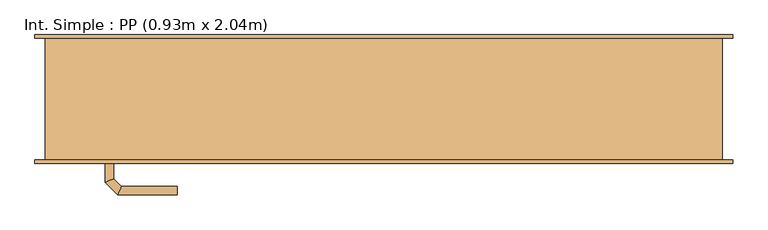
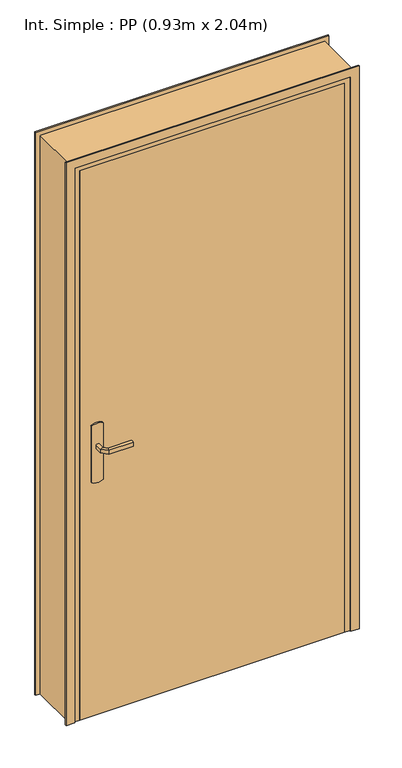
"""IFC4 building model written with IfcOpenShell, lengths in millimetres: door geometry, Int. Simple : PP (0.93m x 2.04m)."""

from ifc_helpers import new_model, si_unit, point, frame, frame_2d, origin, origin_with_axes, place, context, project, spatial, polyline, circle_curve, ellipse_curve, trimmed, segment, composite_curve, outline, extrude, faceted_brep, source, transform, mapped, element, save
from ifc_brep_helpers import plane_surface, cylinder_surface, advanced_brep


def int_simple_pp_0_93m_x_2_04m_0354226a(model_context):
    return source(origin(), model_context, "Body", "SolidModel", [
        extrude(outline(composite_curve([segment(trimmed(circle_curve(frame_2d((904.6410162, -440.0)), 40.0), [point((870.0, -460.0))], [point((870.0, -420.0))], False, "CARTESIAN"), True, "CONTINUOUS"), segment(polyline([(870.0, -420.0), (1080.0, -420.0)]), True, "CONTINUOUS"), segment(trimmed(circle_curve(frame_2d((1045.3589838, -440.0)), 40.0), [point((1080.0, -420.0))], [point((1080.0, -460.0))], False, "CARTESIAN"), True, "CONTINUOUS"), segment(polyline([(1080.0, -460.0), (870.0, -460.0)]), True, "CONTINUOUS")], self_intersect=False)), frame((0.0, -95.0, 0.0), z_axis=(0.0, 1.0, 0.0), x_axis=(0.0, 0.0, 1.0)), (0.0, 0.0, 1.0), 5.0),
        extrude(outline(composite_curve([segment(trimmed(circle_curve(frame_2d((1045.3589838, -440.0)), 40.0), [point((1080.0, -420.0))], [point((1080.0, -460.0))], False, "CARTESIAN"), True, "CONTINUOUS"), segment(polyline([(1080.0, -460.0), (870.0, -460.0)]), True, "CONTINUOUS"), segment(trimmed(circle_curve(frame_2d((904.6410162, -440.0)), 40.0), [point((870.0, -460.0))], [point((870.0, -420.0))], False, "CARTESIAN"), True, "CONTINUOUS"), segment(polyline([(870.0, -420.0), (1080.0, -420.0)]), True, "CONTINUOUS")], self_intersect=False)), frame((0.0, -50.0, 0.0), z_axis=(0.0, 1.0, 0.0), x_axis=(0.0, 0.0, 1.0)), (0.0, 0.0, 1.0), 5.0),
        advanced_brep(
        [(-446.0, -95.0, 1007.0), (-434.0, -95.0, 1007.0), (-434.0, -95.0, 993.0), (-446.0, -95.0, 993.0), (-446.0, -122.6509507, 1007.0), (-434.0, -117.680388, 1007.0), (-434.0, -117.680388, 993.0), (-446.0, -122.6509507, 993.0), (-427.62279, -141.0281607, 1007.0), (-422.6522273, -129.0281607, 1007.0), (-422.6522273, -129.0281607, 993.0), (-427.62279, -141.0281607, 993.0), (-339.9813594, -141.0281607, 1007.0), (-339.9813594, -141.0281607, 993.0), (-339.9813594, -129.0281607, 993.0), (-339.9813594, -129.0281607, 1007.0)],
        [
            (0, 1, circle_curve(frame((-440.0, -95.0, 986.9542278), z_axis=(0.0, 1.0, 0.0), x_axis=(1.0, 0.0, 0.0)), 20.9244589)),
            (1, 2),
            (2, 3, circle_curve(frame((-440.0, -95.0, 1013.0457722), z_axis=(0.0, 1.0, 0.0), x_axis=(1.0, 0.0, 0.0)), 20.9244589)),
            (3, 0),
            (0, 4),
            (4, 5, ellipse_curve(frame((-440.0, -120.1656693, 986.9542278), z_axis=(-0.3826834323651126, 0.9238795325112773, 0.0), x_axis=(0.9238795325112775, 0.38268343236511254, 0.0)), 22.6484711, 20.9244589)),
            (5, 1),
            (5, 6),
            (6, 2),
            (6, 7, ellipse_curve(frame((-440.0, -120.1656693, 1013.0457722), z_axis=(-0.3826834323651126, 0.9238795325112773, 0.0), x_axis=(0.9238795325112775, 0.38268343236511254, 0.0)), 22.6484711, 20.9244589)),
            (7, 3),
            (7, 4),
            (4, 8),
            (8, 9, ellipse_curve(frame((-425.1375086, -135.0281607, 986.9542278), z_axis=(-0.9238795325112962, 0.38268343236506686, 0.0), x_axis=(0.3826834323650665, 0.9238795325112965, 0.0)), 22.6484711, 20.9244589)),
            (9, 5),
            (9, 10),
            (10, 6),
            (10, 11, ellipse_curve(frame((-425.1375086, -135.0281607, 1013.0457722), z_axis=(-0.9238795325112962, 0.38268343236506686, 0.0), x_axis=(0.3826834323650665, 0.9238795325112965, 0.0)), 22.6484711, 20.9244589)),
            (11, 7),
            (11, 8),
            (12, 13),
            (13, 14, circle_curve(frame((-339.9813594, -135.0281607, 1013.0457722), z_axis=(1.0, 0.0, 0.0), x_axis=(0.0, 1.0, 0.0)), 20.9244589)),
            (14, 15),
            (15, 12, circle_curve(frame((-339.9813594, -135.0281607, 986.9542278), z_axis=(1.0, 0.0, 0.0), x_axis=(0.0, 1.0, 0.0)), 20.9244589)),
            (8, 12),
            (15, 9),
            (14, 10),
            (13, 11),
        ],
        [
            plane_surface(frame((-449.2195445, -95.0, 1000.0), z_axis=(0.0, 1.0, 0.0), x_axis=(0.0, 0.0, -1.0))),
            cylinder_surface(frame((-440.0, -95.0, 986.9542278), z_axis=(0.0, 1.0, 0.0), x_axis=(1.0, 0.0, 0.0)), 20.9244589),
            plane_surface(frame((-434.0, -95.0, 1007.0), z_axis=(1.0, 0.0, 0.0), x_axis=(0.0, -1.0, 0.0))),
            cylinder_surface(frame((-440.0, -95.0, 1013.0457722), z_axis=(0.0, 1.0, 0.0), x_axis=(1.0, 0.0, 0.0)), 20.9244589),
            plane_surface(frame((-446.0, -95.0, 993.0), z_axis=(-1.0, 0.0, 0.0), x_axis=(0.0, -1.0, 0.0))),
            cylinder_surface(frame((-440.0, -120.1656693, 986.9542278), z_axis=(-0.7071067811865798, 0.7071067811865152, 0.0), x_axis=(0.7071067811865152, 0.7071067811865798, 0.0)), 20.9244589),
            plane_surface(frame((-434.0, -117.680388, 1007.0), z_axis=(0.7071067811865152, 0.7071067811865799, 0.0), x_axis=(0.7071067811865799, -0.7071067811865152, 0.0))),
            cylinder_surface(frame((-440.0, -120.1656693, 1013.0457722), z_axis=(-0.7071067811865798, 0.7071067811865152, 0.0), x_axis=(0.7071067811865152, 0.7071067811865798, 0.0)), 20.9244589),
            plane_surface(frame((-446.0, -122.6509507, 993.0), z_axis=(-0.7071067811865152, -0.7071067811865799, 0.0), x_axis=(0.7071067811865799, -0.7071067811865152, 0.0))),
            plane_surface(frame((-339.9813594, -135.0281607, 990.7804555), z_axis=(1.0, 0.0, 0.0), x_axis=(0.0, 1.0, 0.0))),
            cylinder_surface(frame((-425.1375086, -135.0281607, 986.9542278), z_axis=(-1.0, 0.0, 0.0), x_axis=(0.0, 1.0, 0.0)), 20.9244589),
            plane_surface(frame((-422.6522273, -129.0281607, 1007.0), z_axis=(0.0, 1.0, 0.0), x_axis=(1.0, 0.0, 0.0))),
            cylinder_surface(frame((-425.1375086, -135.0281607, 1013.0457722), z_axis=(-1.0, 0.0, 0.0), x_axis=(0.0, 1.0, 0.0)), 20.9244589),
            plane_surface(frame((-427.62279, -141.0281607, 993.0), z_axis=(0.0, -1.0, 0.0), x_axis=(1.0, 0.0, 0.0))),
        ],
        [
            (0, [[1, 2, 3, 4]]),
            (1, [[-1, 5, 6, 7]]),
            (2, [[-2, -7, 8, 9]]),
            (3, [[-3, -9, 10, 11]]),
            (4, [[-4, -11, 12, -5]]),
            (5, [[-6, 13, 14, 15]]),
            (6, [[-8, -15, 16, 17]]),
            (7, [[-10, -17, 18, 19]]),
            (8, [[-12, -19, 20, -13]]),
            (9, [[21, 22, 23, 24]]),
            (10, [[-14, 25, -24, 26]]),
            (11, [[-16, -26, -23, 27]]),
            (12, [[-18, -27, -22, 28]]),
            (13, [[-20, -28, -21, -25]]),
        ],
    ),
        advanced_brep(
        [(-434.0, -45.0, 993.0), (-434.0, -45.0, 1007.0), (-446.0, -45.0, 1007.0), (-446.0, -45.0, 993.0), (-434.0, -22.5147955, 993.0), (-434.0, -22.5147955, 1007.0), (-446.0, -17.5442327, 1007.0), (-446.0, -17.5442327, 993.0), (-422.5147186, -11.0295141, 993.0), (-422.5147186, -11.0295141, 1007.0), (-427.4852814, 0.9704859, 1007.0), (-427.4852814, 0.9704859, 993.0), (-339.9542163, -11.0295141, 993.0), (-339.9542163, 0.9704859, 993.0), (-339.9542163, 0.9704859, 1007.0), (-339.9542163, -11.0295141, 1007.0)],
        [
            (0, 1),
            (1, 2, circle_curve(frame((-440.0, -45.0, 986.9542278), z_axis=(0.0, -1.0, 0.0), x_axis=(-1.0, 0.0, 0.0)), 20.9244589)),
            (2, 3),
            (3, 0, circle_curve(frame((-440.0, -45.0, 1013.0457722), z_axis=(0.0, -1.0, 0.0), x_axis=(-1.0, 0.0, 0.0)), 20.9244589)),
            (0, 4),
            (4, 5),
            (5, 1),
            (5, 6, ellipse_curve(frame((-440.0, -20.0295141, 986.9542278), z_axis=(-0.3826834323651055, -0.9238795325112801, 0.0), x_axis=(0.9238795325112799, -0.3826834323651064, 0.0)), 22.6484711, 20.9244589)),
            (6, 2),
            (6, 7),
            (7, 3),
            (7, 4, ellipse_curve(frame((-440.0, -20.0295141, 1013.0457722), z_axis=(-0.3826834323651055, -0.9238795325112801, 0.0), x_axis=(0.9238795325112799, -0.3826834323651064, 0.0)), 22.6484711, 20.9244589)),
            (4, 8),
            (8, 9),
            (9, 5),
            (9, 10, ellipse_curve(frame((-425.0, -5.0295141, 986.9542278), z_axis=(-0.9238795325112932, -0.382683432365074, 0.0), x_axis=(0.3826834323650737, -0.9238795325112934, 0.0)), 22.6484711, 20.9244589)),
            (10, 6),
            (10, 11),
            (11, 7),
            (11, 8, ellipse_curve(frame((-425.0, -5.0295141, 1013.0457722), z_axis=(-0.9238795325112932, -0.382683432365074, 0.0), x_axis=(0.3826834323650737, -0.9238795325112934, 0.0)), 22.6484711, 20.9244589)),
            (12, 13, circle_curve(frame((-339.9542163, -5.0295141, 1013.0457722), z_axis=(1.0, 0.0, 0.0), x_axis=(0.0, 1.0, 0.0)), 20.9244589)),
            (13, 14),
            (14, 15, circle_curve(frame((-339.9542163, -5.0295141, 986.9542278), z_axis=(1.0, 0.0, 0.0), x_axis=(0.0, 1.0, 0.0)), 20.9244589)),
            (15, 12),
            (8, 12),
            (15, 9),
            (14, 10),
            (13, 11),
        ],
        [
            plane_surface(frame((-449.2195445, -45.0, 1000.0), z_axis=(0.0, -1.0, 0.0), x_axis=(0.0, 0.0, 1.0))),
            plane_surface(frame((-434.0, -45.0, 993.0), z_axis=(1.0, 0.0, 0.0), x_axis=(0.0, 1.0, 0.0))),
            cylinder_surface(frame((-440.0, -45.0, 986.9542278), z_axis=(0.0, -1.0, 0.0), x_axis=(-1.0, 0.0, 0.0)), 20.9244589),
            plane_surface(frame((-446.0, -45.0, 1007.0), z_axis=(-1.0, 0.0, 0.0), x_axis=(0.0, 1.0, 0.0))),
            cylinder_surface(frame((-440.0, -45.0, 1013.0457722), z_axis=(0.0, -1.0, 0.0), x_axis=(-1.0, 0.0, 0.0)), 20.9244589),
            plane_surface(frame((-434.0, -22.5147955, 993.0), z_axis=(0.7071067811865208, -0.7071067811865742, 0.0), x_axis=(0.7071067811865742, 0.7071067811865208, 0.0))),
            cylinder_surface(frame((-440.0, -20.0295141, 986.9542278), z_axis=(-0.7071067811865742, -0.7071067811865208, 0.0), x_axis=(-0.7071067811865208, 0.7071067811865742, 0.0)), 20.9244589),
            plane_surface(frame((-446.0, -17.5442327, 1007.0), z_axis=(-0.7071067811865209, 0.7071067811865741, 0.0), x_axis=(0.7071067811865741, 0.7071067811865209, 0.0))),
            cylinder_surface(frame((-440.0, -20.0295141, 1013.0457722), z_axis=(-0.7071067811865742, -0.7071067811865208, 0.0), x_axis=(-0.7071067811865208, 0.7071067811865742, 0.0)), 20.9244589),
            plane_surface(frame((-339.9542163, -5.0295141, 990.7804555), z_axis=(1.0, 0.0, 0.0), x_axis=(0.0, 1.0, 0.0))),
            plane_surface(frame((-422.5147186, -11.0295141, 993.0), z_axis=(0.0, -1.0, 0.0), x_axis=(1.0, 0.0, 0.0))),
            cylinder_surface(frame((-425.0, -5.0295141, 986.9542278), z_axis=(-1.0, 0.0, 0.0), x_axis=(0.0, 1.0, 0.0)), 20.9244589),
            plane_surface(frame((-427.4852814, 0.9704859, 1007.0), z_axis=(0.0, 1.0, 0.0), x_axis=(1.0, 0.0, 0.0))),
            cylinder_surface(frame((-425.0, -5.0295141, 1013.0457722), z_axis=(-1.0, 0.0, 0.0), x_axis=(0.0, 1.0, 0.0)), 20.9244589),
        ],
        [
            (0, [[1, 2, 3, 4]]),
            (1, [[-1, 5, 6, 7]]),
            (2, [[-2, -7, 8, 9]]),
            (3, [[-3, -9, 10, 11]]),
            (4, [[-4, -11, 12, -5]]),
            (5, [[-6, 13, 14, 15]]),
            (6, [[-8, -15, 16, 17]]),
            (7, [[-10, -17, 18, 19]]),
            (8, [[-12, -19, 20, -13]]),
            (9, [[21, 22, 23, 24]]),
            (10, [[-14, 25, -24, 26]]),
            (11, [[-16, -26, -23, 27]]),
            (12, [[-18, -27, -22, 28]]),
            (13, [[-20, -28, -21, -25]]),
        ],
    ),
        extrude(outline(polyline([(-500.0, -50.0), (430.0, -50.0), (430.0, -90.0), (-500.0, -90.0), (-500.0, -50.0)])), origin_with_axes(), (0.0, 0.0, 1.0), 2040.0),
        faceted_brep([(-535.0, -90.0, 0.0), (-535.0, 90.0, 0.0), (-485.0, 90.0, 0.0), (-485.0, -50.0, 0.0), (-500.0, -50.0, 0.0), (-500.0, -90.0, 0.0), (-535.0, -90.0, 2075.0), (-535.0, 90.0, 2075.0), (465.0, 90.0, 2075.0), (465.0, 90.0, 0.0), (415.0, 90.0, 0.0), (415.0, 90.0, 2025.0), (-485.0, 90.0, 2025.0), (-485.0, -50.0, 2025.0), (415.0, -50.0, 2025.0), (415.0, -50.0, 0.0), (430.0, -50.0, 0.0), (430.0, -50.0, 2040.0), (-500.0, -50.0, 2040.0), (-500.0, -90.0, 2040.0), (430.0, -90.0, 2040.0), (430.0, -90.0, 0.0), (465.0, -90.0, 0.0), (465.0, -90.0, 2075.0)], [[[0, 1, 2, 3, 4, 5]], [[1, 0, 6, 7]], [[2, 1, 7, 8, 9, 10, 11, 12]], [[3, 2, 12, 13]], [[4, 3, 13, 14, 15, 16, 17, 18]], [[5, 4, 18, 19]], [[0, 5, 19, 20, 21, 22, 23, 6]], [[8, 23, 22, 9]], [[22, 21, 16, 15, 10, 9]], [[14, 11, 10, 15]], [[20, 17, 16, 21]], [[7, 6, 23, 8]], [[13, 12, 11, 14]], [[19, 18, 17, 20]]]),
        extrude(outline(polyline([(0.0, -550.0), (0.0, -520.0), (2060.0, -520.0), (2060.0, 450.0), (0.0, 450.0), (0.0, 480.0), (2090.0, 480.0), (2090.0, -550.0), (0.0, -550.0)])), frame((0.0, -95.0, 0.0), z_axis=(0.0, 1.0, 0.0), x_axis=(0.0, 0.0, 1.0)), (0.0, 0.0, 1.0), 5.0),
        extrude(outline(polyline([(0.0, -550.0), (0.0, -520.0), (2060.0, -520.0), (2060.0, 450.0), (0.0, 450.0), (0.0, 480.0), (2090.0, 480.0), (2090.0, -550.0), (0.0, -550.0)])), frame((0.0, 90.0, 0.0), z_axis=(0.0, 1.0, 0.0), x_axis=(0.0, 0.0, 1.0)), (0.0, 0.0, 1.0), 5.0),
    ])


if __name__ == "__main__":
    model = new_model("IFC4")
    model_context = context("Model", 3, world=origin())
    ifc_project = project(units=[si_unit("LENGTHUNIT", "METRE", prefix="MILLI")], contexts=[model_context])
    site = spatial("IfcSite", under=ifc_project)
    building = spatial("IfcBuilding", under=site)
    placement = place(None, origin())
    int_simple_pp_0_93m_x_2_04m_shape = int_simple_pp_0_93m_x_2_04m_0354226a(model_context)
    element("IfcDoor", 1, ObjectType="Int. Simple : PP (0.93m x 2.04m)", at=placement, inside=building, context=model_context, shape_type="MappedRepresentation", body=[
        mapped(int_simple_pp_0_93m_x_2_04m_shape, transform((0.0, 0.0, 0.0), x_axis=(1.0, 0.0, 0.0), y_axis=(0.0, 1.0, 0.0), z_axis=(0.0, 0.0, 1.0))),
    ])
    save(model, "model.ifc")
